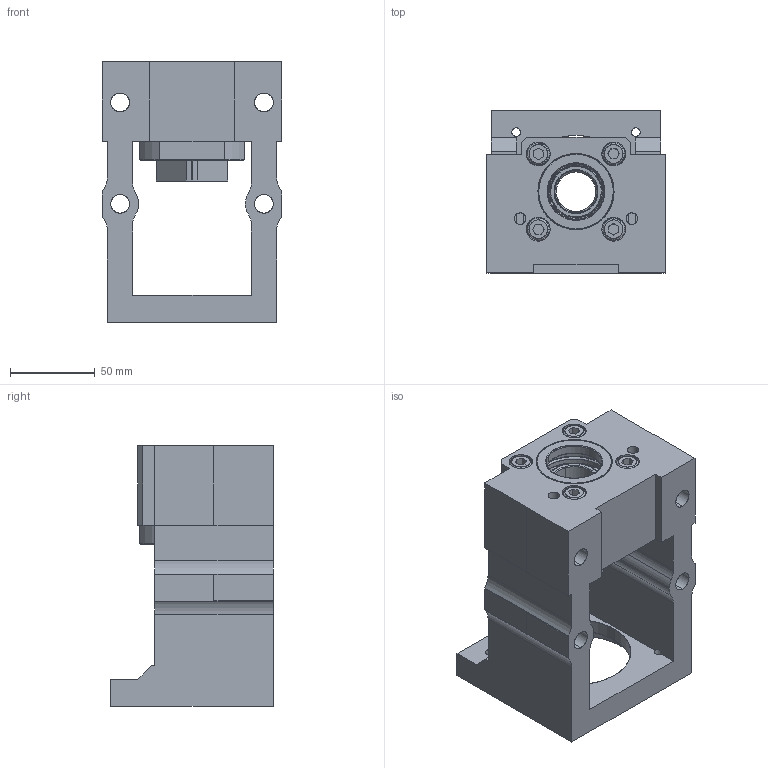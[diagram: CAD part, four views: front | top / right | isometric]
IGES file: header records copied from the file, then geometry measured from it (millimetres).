
Start section: SolidWorks IGES file using analytic representation for surfaces
Bounding box: 106 x 96 x 154 mm (x, y, z)
Surface area: 118688.5 mm2 (no closed solid volume)
Topology: 0 solids, 0 shells, 285 faces, 4230 edges, 4174 vertices
Faces by surface type: revolution 151, bspline 134
